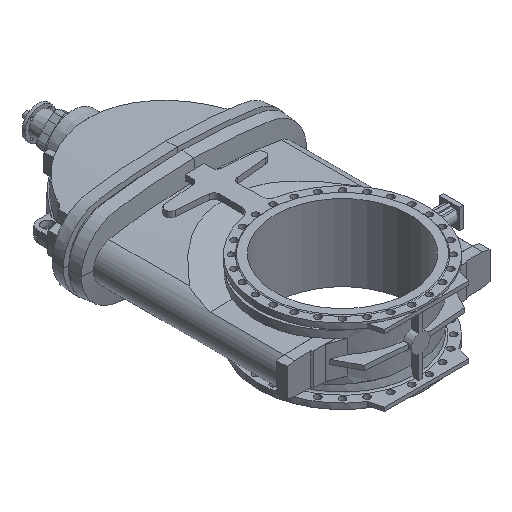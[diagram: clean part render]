
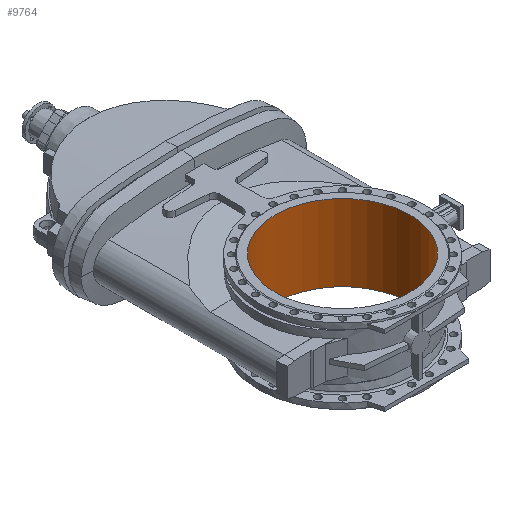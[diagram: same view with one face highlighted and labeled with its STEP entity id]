
A CAD part, isometric view. The second image highlights one B-rep face of the part: STEP entity #9764.
In plain terms, the highlighted cylindrical face has radius 450 mm (diameter 900 mm), a full revolution.
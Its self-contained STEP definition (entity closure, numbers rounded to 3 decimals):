
#2847 = DIRECTION ( 'NONE',  ( 1., 0., 0. ) ) ;
#2848 = CARTESIAN_POINT ( 'NONE',  ( 0., -50., -631.486 ) ) ;
#2849 = DIRECTION ( 'NONE',  ( 0., 0., 1. ) ) ;
#3869 = FACE_OUTER_BOUND ( 'NONE', #12056, .T. ) ;
#3874 = FACE_OUTER_BOUND ( 'NONE', #12051, .T. ) ;
#3876 = CYLINDRICAL_SURFACE ( 'NONE', #4690, 450. ) ;
#4587 = VERTEX_POINT ( 'NONE', #7883 ) ;
#4597 = VERTEX_POINT ( 'NONE', #7893 ) ;
#4690 = AXIS2_PLACEMENT_3D ( 'NONE', #2848, #2849, #2847 ) ;
#7883 = CARTESIAN_POINT ( 'NONE',  ( 0., -500., -255. ) ) ;
#7893 = CARTESIAN_POINT ( 'NONE',  ( 0., -500., 255. ) ) ;
#8132 = EDGE_CURVE ( 'NONE', #4587, #4587, #10835, .T. ) ;
#8166 = EDGE_CURVE ( 'NONE', #4597, #4597, #10875, .T. ) ;
#8923 = CARTESIAN_POINT ( 'NONE',  ( 0., -50., -255. ) ) ;
#8924 = DIRECTION ( 'NONE',  ( 0., 0., -1. ) ) ;
#8925 = DIRECTION ( 'NONE',  ( 0., -1., 0. ) ) ;
#9764 = ADVANCED_FACE ( 'NONE', ( #3869, #3874 ), #3876, .F. ) ;
#10835 = CIRCLE ( 'NONE', #16438, 450. ) ;
#10875 = CIRCLE ( 'NONE', #16455, 450. ) ;
#11065 = CARTESIAN_POINT ( 'NONE',  ( 0., -50., 255. ) ) ;
#11066 = DIRECTION ( 'NONE',  ( 0., 0., -1. ) ) ;
#11067 = DIRECTION ( 'NONE',  ( 0., -1., 0. ) ) ;
#12051 = EDGE_LOOP ( 'NONE', ( #13773 ) ) ;
#12056 = EDGE_LOOP ( 'NONE', ( #13772 ) ) ;
#13772 = ORIENTED_EDGE ( 'NONE', *, *, #8132, .T. ) ;
#13773 = ORIENTED_EDGE ( 'NONE', *, *, #8166, .F. ) ;
#16438 = AXIS2_PLACEMENT_3D ( 'NONE', #8923, #8924, #8925 ) ;
#16455 = AXIS2_PLACEMENT_3D ( 'NONE', #11065, #11066, #11067 ) ;
